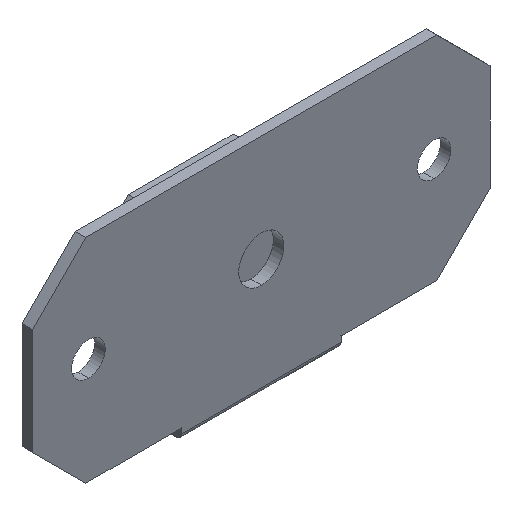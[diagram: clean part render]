
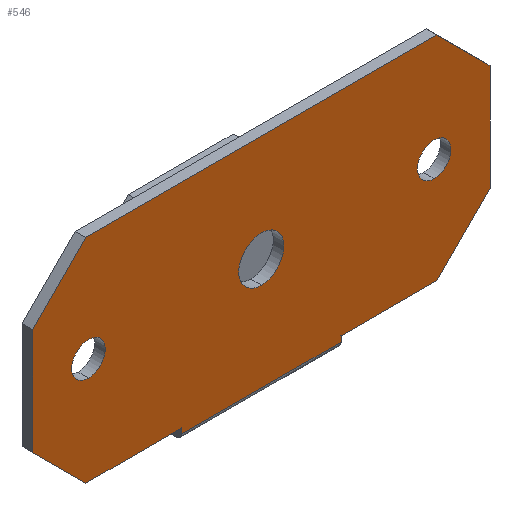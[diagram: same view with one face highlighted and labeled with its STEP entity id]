
A CAD part, isometric view. The second image highlights one B-rep face of the part: STEP entity #546.
In plain terms, the highlighted planar face has unit normal (0, -1, 0).
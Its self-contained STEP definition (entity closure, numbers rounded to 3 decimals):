
#4 = ORIENTED_EDGE ( 'NONE', *, *, #474, .F. ) ;
#12 = EDGE_CURVE ( 'NONE', #2282, #2067, #1894, .T. ) ;
#17 = AXIS2_PLACEMENT_3D ( 'NONE', #1695, #986, #2257 ) ;
#18 = DIRECTION ( 'NONE',  ( -0.707, 0., -0.707 ) ) ;
#19 = LINE ( 'NONE', #1167, #1470 ) ;
#32 = DIRECTION ( 'NONE',  ( 0., 1., 0. ) ) ;
#33 = ORIENTED_EDGE ( 'NONE', *, *, #1405, .T. ) ;
#42 = CARTESIAN_POINT ( 'NONE',  ( 76., 0., -40. ) ) ;
#44 = LINE ( 'NONE', #157, #1804 ) ;
#46 = LINE ( 'NONE', #1819, #1917 ) ;
#55 = VERTEX_POINT ( 'NONE', #1514 ) ;
#65 = VERTEX_POINT ( 'NONE', #42 ) ;
#70 = VECTOR ( 'NONE', #18, 1000. ) ;
#108 = EDGE_CURVE ( 'NONE', #65, #2178, #1947, .T. ) ;
#130 = CARTESIAN_POINT ( 'NONE',  ( 43., 0., -15.75 ) ) ;
#141 = CIRCLE ( 'NONE', #809, 3.15 ) ;
#142 = CARTESIAN_POINT ( 'NONE',  ( 43., 0., -24.25 ) ) ;
#157 = CARTESIAN_POINT ( 'NONE',  ( 58., 0., -41. ) ) ;
#220 = CARTESIAN_POINT ( 'NONE',  ( 43., 0., -20. ) ) ;
#226 = EDGE_LOOP ( 'NONE', ( #33, #364 ) ) ;
#247 = CIRCLE ( 'NONE', #627, 4.25 ) ;
#262 = EDGE_LOOP ( 'NONE', ( #2026, #1524 ) ) ;
#265 = ORIENTED_EDGE ( 'NONE', *, *, #1876, .T. ) ;
#324 = VECTOR ( 'NONE', #341, 1000. ) ;
#341 = DIRECTION ( 'NONE',  ( 0., 0., -1. ) ) ;
#364 = ORIENTED_EDGE ( 'NONE', *, *, #1671, .T. ) ;
#369 = CARTESIAN_POINT ( 'NONE',  ( 86., 0., 0. ) ) ;
#377 = EDGE_CURVE ( 'NONE', #1542, #55, #899, .T. ) ;
#397 = DIRECTION ( 'NONE',  ( 0., 1., 0. ) ) ;
#427 = CARTESIAN_POINT ( 'NONE',  ( 10., 0., 0. ) ) ;
#455 = ORIENTED_EDGE ( 'NONE', *, *, #12, .F. ) ;
#464 = CIRCLE ( 'NONE', #2224, 3.15 ) ;
#465 = EDGE_CURVE ( 'NONE', #1966, #1542, #1865, .T. ) ;
#468 = DIRECTION ( 'NONE',  ( -1., 0., 0. ) ) ;
#472 = ORIENTED_EDGE ( 'NONE', *, *, #2120, .F. ) ;
#473 = ORIENTED_EDGE ( 'NONE', *, *, #2281, .T. ) ;
#474 = EDGE_CURVE ( 'NONE', #55, #1273, #578, .T. ) ;
#479 = EDGE_CURVE ( 'NONE', #954, #969, #464, .T. ) ;
#499 = FACE_OUTER_BOUND ( 'NONE', #1870, .T. ) ;
#528 = ORIENTED_EDGE ( 'NONE', *, *, #108, .F. ) ;
#539 = DIRECTION ( 'NONE',  ( 0., 0., 1. ) ) ;
#546 = ADVANCED_FACE ( 'NONE', ( #499, #2334, #2193, #2139 ), #1308, .F. ) ;
#550 = CARTESIAN_POINT ( 'NONE',  ( 28., 0., -40. ) ) ;
#578 = LINE ( 'NONE', #369, #324 ) ;
#593 = CARTESIAN_POINT ( 'NONE',  ( 10.5, 0., -20. ) ) ;
#604 = CARTESIAN_POINT ( 'NONE',  ( 0., 0., 0. ) ) ;
#627 = AXIS2_PLACEMENT_3D ( 'NONE', #220, #32, #2203 ) ;
#633 = CIRCLE ( 'NONE', #17, 4.25 ) ;
#643 = ORIENTED_EDGE ( 'NONE', *, *, #2236, .F. ) ;
#665 = CARTESIAN_POINT ( 'NONE',  ( 76., 0., 0. ) ) ;
#691 = CARTESIAN_POINT ( 'NONE',  ( 10.5, 0., -23.15 ) ) ;
#715 = DIRECTION ( 'NONE',  ( 0., 0., 1. ) ) ;
#768 = CARTESIAN_POINT ( 'NONE',  ( 5., 0., -5. ) ) ;
#793 = DIRECTION ( 'NONE',  ( 0., 1., 0. ) ) ;
#800 = VECTOR ( 'NONE', #1518, 1000. ) ;
#802 = CARTESIAN_POINT ( 'NONE',  ( 75.5, 0., -20. ) ) ;
#809 = AXIS2_PLACEMENT_3D ( 'NONE', #802, #793, #1345 ) ;
#821 = ORIENTED_EDGE ( 'NONE', *, *, #1406, .T. ) ;
#842 = VECTOR ( 'NONE', #2122, 1000. ) ;
#879 = CARTESIAN_POINT ( 'NONE',  ( 0., 0., 0. ) ) ;
#899 = LINE ( 'NONE', #1198, #1334 ) ;
#917 = CARTESIAN_POINT ( 'NONE',  ( 0., 0., 0. ) ) ;
#928 = VERTEX_POINT ( 'NONE', #130 ) ;
#930 = DIRECTION ( 'NONE',  ( 0., 1., 0. ) ) ;
#935 = LINE ( 'NONE', #1195, #70 ) ;
#944 = VECTOR ( 'NONE', #1983, 1000. ) ;
#954 = VERTEX_POINT ( 'NONE', #1041 ) ;
#967 = CARTESIAN_POINT ( 'NONE',  ( 0., 0., -40. ) ) ;
#969 = VERTEX_POINT ( 'NONE', #691 ) ;
#986 = DIRECTION ( 'NONE',  ( 0., 1., 0. ) ) ;
#989 = VECTOR ( 'NONE', #1659, 1000. ) ;
#1004 = VERTEX_POINT ( 'NONE', #1940 ) ;
#1039 = EDGE_CURVE ( 'NONE', #2067, #1004, #1193, .T. ) ;
#1041 = CARTESIAN_POINT ( 'NONE',  ( 10.5, 0., -16.85 ) ) ;
#1064 = VERTEX_POINT ( 'NONE', #142 ) ;
#1091 = CARTESIAN_POINT ( 'NONE',  ( 75.5, 0., -16.85 ) ) ;
#1167 = CARTESIAN_POINT ( 'NONE',  ( 0., 0., -40. ) ) ;
#1193 = LINE ( 'NONE', #879, #842 ) ;
#1195 = CARTESIAN_POINT ( 'NONE',  ( 58., 0., -58. ) ) ;
#1198 = CARTESIAN_POINT ( 'NONE',  ( 38., 0., 38. ) ) ;
#1199 = VERTEX_POINT ( 'NONE', #550 ) ;
#1218 = EDGE_CURVE ( 'NONE', #969, #954, #1554, .T. ) ;
#1256 = ORIENTED_EDGE ( 'NONE', *, *, #1717, .F. ) ;
#1273 = VERTEX_POINT ( 'NONE', #1655 ) ;
#1279 = ORIENTED_EDGE ( 'NONE', *, *, #1803, .F. ) ;
#1286 = DIRECTION ( 'NONE',  ( 0., 1., 0. ) ) ;
#1287 = VERTEX_POINT ( 'NONE', #1668 ) ;
#1308 = PLANE ( 'NONE',  #2013 ) ;
#1334 = VECTOR ( 'NONE', #1754, 1000. ) ;
#1345 = DIRECTION ( 'NONE',  ( 0., 0., 1. ) ) ;
#1346 = DIRECTION ( 'NONE',  ( 0., 0., 1. ) ) ;
#1353 = AXIS2_PLACEMENT_3D ( 'NONE', #2009, #397, #1822 ) ;
#1369 = CARTESIAN_POINT ( 'NONE',  ( 58., 0., -40. ) ) ;
#1385 = LINE ( 'NONE', #1949, #1914 ) ;
#1405 = EDGE_CURVE ( 'NONE', #1287, #1753, #141, .T. ) ;
#1406 = EDGE_CURVE ( 'NONE', #1064, #928, #633, .T. ) ;
#1431 = ORIENTED_EDGE ( 'NONE', *, *, #377, .F. ) ;
#1470 = VECTOR ( 'NONE', #468, 1000. ) ;
#1512 = CARTESIAN_POINT ( 'NONE',  ( 10., 0., -40. ) ) ;
#1514 = CARTESIAN_POINT ( 'NONE',  ( 86., 0., -10. ) ) ;
#1518 = DIRECTION ( 'NONE',  ( -1., 0., 0. ) ) ;
#1520 = DIRECTION ( 'NONE',  ( -0.707, 0., 0.707 ) ) ;
#1524 = ORIENTED_EDGE ( 'NONE', *, *, #479, .T. ) ;
#1528 = LINE ( 'NONE', #768, #989 ) ;
#1542 = VERTEX_POINT ( 'NONE', #665 ) ;
#1554 = CIRCLE ( 'NONE', #1353, 3.15 ) ;
#1655 = CARTESIAN_POINT ( 'NONE',  ( 86., 0., -30. ) ) ;
#1659 = DIRECTION ( 'NONE',  ( 0.707, 0., 0.707 ) ) ;
#1668 = CARTESIAN_POINT ( 'NONE',  ( 75.5, 0., -23.15 ) ) ;
#1671 = EDGE_CURVE ( 'NONE', #1753, #1287, #1852, .T. ) ;
#1695 = CARTESIAN_POINT ( 'NONE',  ( 43., 0., -20. ) ) ;
#1700 = DIRECTION ( 'NONE',  ( 0., 1., 0. ) ) ;
#1717 = EDGE_CURVE ( 'NONE', #2178, #2343, #46, .T. ) ;
#1719 = AXIS2_PLACEMENT_3D ( 'NONE', #2177, #1286, #539 ) ;
#1753 = VERTEX_POINT ( 'NONE', #1091 ) ;
#1754 = DIRECTION ( 'NONE',  ( 0.707, 0., -0.707 ) ) ;
#1803 = EDGE_CURVE ( 'NONE', #1004, #1966, #1528, .T. ) ;
#1804 = VECTOR ( 'NONE', #2113, 1000. ) ;
#1816 = VECTOR ( 'NONE', #1520, 1000. ) ;
#1819 = CARTESIAN_POINT ( 'NONE',  ( 58., 0., 0. ) ) ;
#1822 = DIRECTION ( 'NONE',  ( 0., 0., 1. ) ) ;
#1844 = DIRECTION ( 'NONE',  ( 0., 0., 1. ) ) ;
#1852 = CIRCLE ( 'NONE', #1719, 3.15 ) ;
#1865 = LINE ( 'NONE', #917, #944 ) ;
#1870 = EDGE_LOOP ( 'NONE', ( #472, #473, #1256, #528, #643, #4, #1431, #2240, #1279, #2144, #455, #2221 ) ) ;
#1876 = EDGE_CURVE ( 'NONE', #928, #1064, #247, .T. ) ;
#1894 = LINE ( 'NONE', #2231, #1816 ) ;
#1914 = VECTOR ( 'NONE', #715, 1000. ) ;
#1917 = VECTOR ( 'NONE', #2353, 1000. ) ;
#1940 = CARTESIAN_POINT ( 'NONE',  ( 0., 0., -10. ) ) ;
#1947 = LINE ( 'NONE', #967, #800 ) ;
#1949 = CARTESIAN_POINT ( 'NONE',  ( 28., 0., 0. ) ) ;
#1966 = VERTEX_POINT ( 'NONE', #427 ) ;
#1978 = EDGE_LOOP ( 'NONE', ( #821, #265 ) ) ;
#1983 = DIRECTION ( 'NONE',  ( 1., 0., 0. ) ) ;
#2009 = CARTESIAN_POINT ( 'NONE',  ( 10.5, 0., -20. ) ) ;
#2013 = AXIS2_PLACEMENT_3D ( 'NONE', #604, #1700, #1844 ) ;
#2026 = ORIENTED_EDGE ( 'NONE', *, *, #1218, .T. ) ;
#2061 = CARTESIAN_POINT ( 'NONE',  ( 58., 0., -41. ) ) ;
#2067 = VERTEX_POINT ( 'NONE', #2319 ) ;
#2100 = CARTESIAN_POINT ( 'NONE',  ( 28., 0., -41. ) ) ;
#2113 = DIRECTION ( 'NONE',  ( 1., 0., 0. ) ) ;
#2120 = EDGE_CURVE ( 'NONE', #2306, #1199, #1385, .T. ) ;
#2122 = DIRECTION ( 'NONE',  ( 0., 0., 1. ) ) ;
#2139 = FACE_BOUND ( 'NONE', #1978, .T. ) ;
#2144 = ORIENTED_EDGE ( 'NONE', *, *, #1039, .F. ) ;
#2166 = EDGE_CURVE ( 'NONE', #1199, #2282, #19, .T. ) ;
#2177 = CARTESIAN_POINT ( 'NONE',  ( 75.5, 0., -20. ) ) ;
#2178 = VERTEX_POINT ( 'NONE', #1369 ) ;
#2193 = FACE_BOUND ( 'NONE', #226, .T. ) ;
#2203 = DIRECTION ( 'NONE',  ( 0., 0., 1. ) ) ;
#2221 = ORIENTED_EDGE ( 'NONE', *, *, #2166, .F. ) ;
#2224 = AXIS2_PLACEMENT_3D ( 'NONE', #593, #930, #1346 ) ;
#2231 = CARTESIAN_POINT ( 'NONE',  ( -15., 0., -15. ) ) ;
#2236 = EDGE_CURVE ( 'NONE', #1273, #65, #935, .T. ) ;
#2240 = ORIENTED_EDGE ( 'NONE', *, *, #465, .F. ) ;
#2257 = DIRECTION ( 'NONE',  ( 0., 0., 1. ) ) ;
#2281 = EDGE_CURVE ( 'NONE', #2306, #2343, #44, .T. ) ;
#2282 = VERTEX_POINT ( 'NONE', #1512 ) ;
#2306 = VERTEX_POINT ( 'NONE', #2100 ) ;
#2319 = CARTESIAN_POINT ( 'NONE',  ( 0., 0., -30. ) ) ;
#2334 = FACE_BOUND ( 'NONE', #262, .T. ) ;
#2343 = VERTEX_POINT ( 'NONE', #2061 ) ;
#2353 = DIRECTION ( 'NONE',  ( 0., 0., -1. ) ) ;
